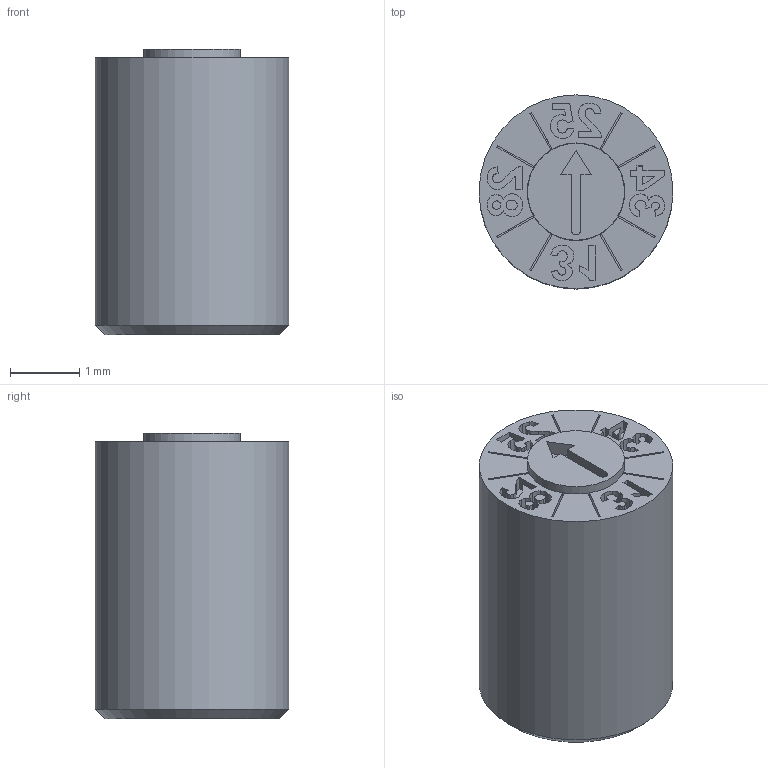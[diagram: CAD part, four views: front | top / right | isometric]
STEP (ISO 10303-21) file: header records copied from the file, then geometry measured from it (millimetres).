
FILE_DESCRIPTION(/* description */ (''),/* implementation_level */ '2;1');
FILE_NAME(/* name */ 'IMC-DK-YEE2-8.step',/* time_stamp */ '2025-04-10T15:15:27+02:00',/* author */ (''),/* organization */ (''),/* preprocessor_version */ 'ST-DEVELOPER v20.1',/* originating_system */ 'Autodesk Translation Framework v14.4.0.0',/* authorisation */ '');
FILE_SCHEMA (('AUTOMOTIVE_DESIGN { 1 0 10303 214 3 1 1 }'));
Length unit declared in the file: millimetre
Products named in the file (1): DK-YEE2-8
Bounding box: 2.8 x 2.8 x 4.12 mm (x, y, z)
Volume: 24.5 mm3; surface area: 62.6 mm2
Topology: 1 solids, 1 shells, 244 faces, 671 edges, 447 vertices
Faces by surface type: bspline 133, plane 94, cylinder 16, cone 1
Full cylindrical faces by diameter (mm): 1.4 x1, 1.41 x1, 2.8 x1
Entity records: 9007 total; most frequent: CARTESIAN_POINT 3624, ORIENTED_EDGE 1342, DIRECTION 686, EDGE_CURVE 671, VERTEX_POINT 447, LINE 348, VECTOR 348, B_SPLINE_CURVE_WITH_KNOTS 266
